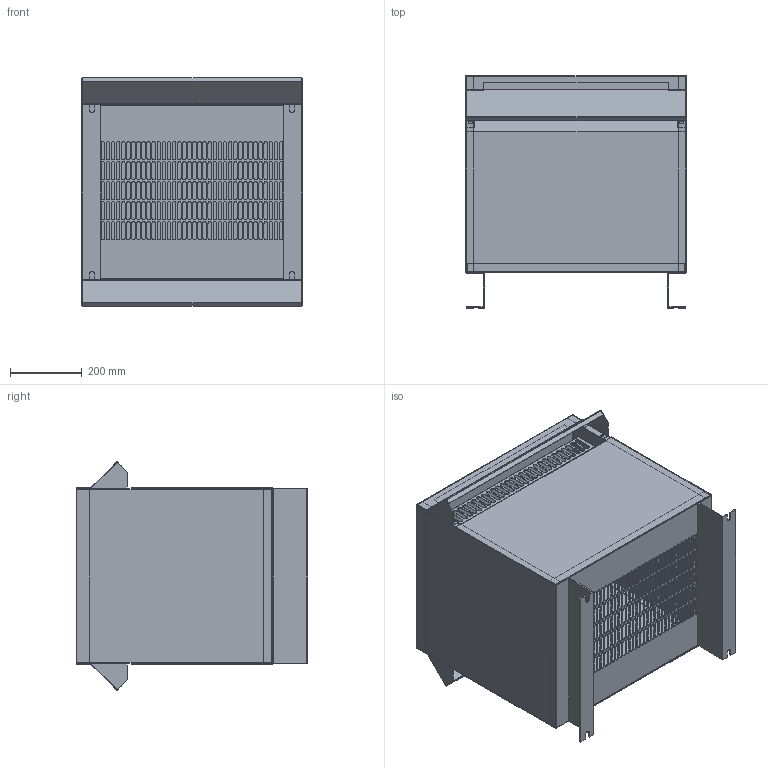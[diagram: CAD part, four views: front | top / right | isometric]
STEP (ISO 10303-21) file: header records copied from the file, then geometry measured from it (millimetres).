
FILE_DESCRIPTION (( 'STEP AP203' ), '1' );
FILE_NAME ('MT-DX-3P-460D-34KVA-230Y.133-N3R.STEP', '2025-07-30T16:49:47', ( '' ), ( '' ), 'SwSTEP 2.0', 'SolidWorks 2020', '' );
FILE_SCHEMA (( 'CONFIG_CONTROL_DESIGN' ));
Length unit declared in the file: inch
Products named in the file (7): MT-DX-3P-460D-34KVA-230Y.133-N3R-Part# 3; water shield 24.10_53.86"; MT-DX-3P-460D-34KVA-230Y.133-N3R; MT-DX-3P-460D-34KVA-230Y.133-N3R-MT-DX-3P-460D-34KVA-230Y.133-N3R-Part## 1; MT-DX-3P-460D-34KVA-230Y.133-N3R-Part# 2; MT-DX-3P-460D-34KVA-230Y.133-N3R-Part# 5; MT-DX-3P-460D-34KVA-230Y.133-N3R-Part# 4
Assembly tree (10 placements, depth 2):
  MT-DX-3P-460D-34KVA-230Y.133-N3R
    MT-DX-3P-460D-34KVA-230Y.133-N3R-Part# 3  x2
    MT-DX-3P-460D-34KVA-230Y.133-N3R-Part# 2  x2
    MT-DX-3P-460D-34KVA-230Y.133-N3R-MT-DX-3P-460D-34KVA-230Y.133-N3R-Part## 1
    water shield 24.10_53.86"  x2
    MT-DX-3P-460D-34KVA-230Y.133-N3R-Part# 4
    MT-DX-3P-460D-34KVA-230Y.133-N3R-Part# 5  x2
Bounding box: 619.51 x 647.19 x 638.86 mm (x, y, z)
Volume: 4142608 mm3; surface area: 4482041.3 mm2
Topology: 10 solids, 10 shells, 1300 faces, 3632 edges, 2352 vertices
Faces by surface type: plane 744, cylinder 536, bspline 20
Entity records: 36083 total; most frequent: CARTESIAN_POINT 6495, ORIENTED_EDGE 5936, DIRECTION 5910, EDGE_CURVE 2968, VECTOR 2064, LINE 2064, VERTEX_POINT 1936, AXIS2_PLACEMENT_3D 1923
